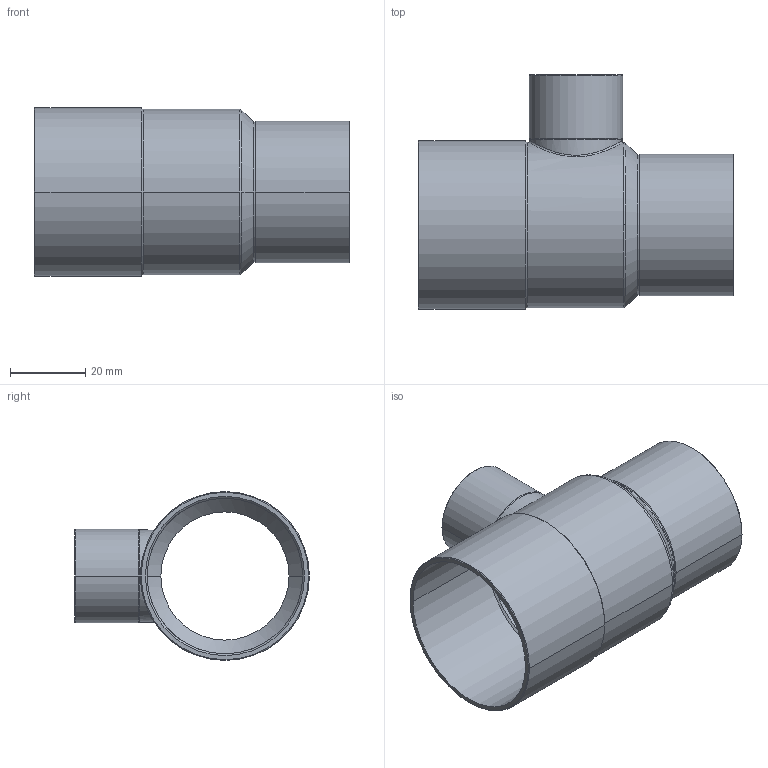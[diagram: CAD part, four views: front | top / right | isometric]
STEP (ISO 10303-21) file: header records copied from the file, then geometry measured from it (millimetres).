
FILE_DESCRIPTION((''),'2;1');
FILE_NAME('G:\Technics\CAD\Bauteile\15130\15130422235.stp','2005-11-03T13:43:03',('boden'),(''),'Autodesk Inventor 8','Autodesk Inventor 8','');
FILE_SCHEMA(('AUTOMOTIVE_DESIGN { 1 0 10303 214 1 1 1 1 }'));
Length unit declared in the file: millimetre
Products named in the file (1): 15130422235
Bounding box: 84 x 62.48 x 44.95 mm (x, y, z)
Volume: 15863.2 mm3; surface area: 24498.4 mm2
Topology: 1 solids, 1 shells, 59 faces, 133 edges, 75 vertices
Faces by surface type: cone 26, cylinder 24, torus 3, bspline 3, plane 3
Entity records: 2068 total; most frequent: CARTESIAN_POINT 722, DIRECTION 296, ORIENTED_EDGE 266, EDGE_CURVE 133, AXIS2_PLACEMENT_3D 123, VERTEX_POINT 75, CIRCLE 66, EDGE_LOOP 62
